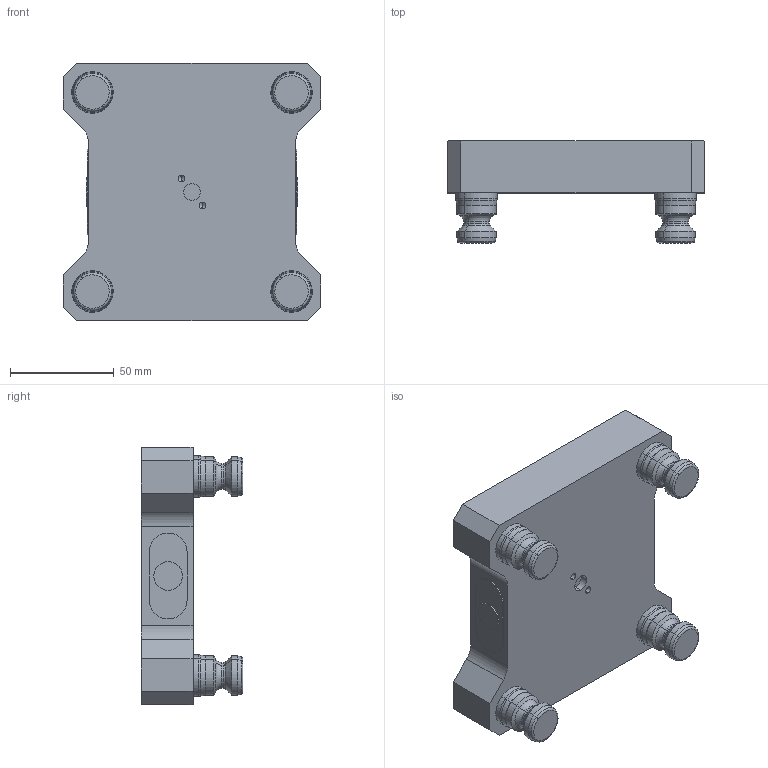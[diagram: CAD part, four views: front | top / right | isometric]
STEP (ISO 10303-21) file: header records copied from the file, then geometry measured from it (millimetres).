
FILE_DESCRIPTION (( 'STEP AP214' ), '1' );
FILE_NAME ('D_RL52A-A96.STEP', '2020-03-09T23:14:45', ( '' ), ( '' ), 'SwSTEP 2.0', 'SolidWorks 2018', '' );
FILE_SCHEMA (( 'AUTOMOTIVE_DESIGN' ));
Length unit declared in the file: millimetre
Products named in the file (3): D_RL52A-A96; D_PS20F_HARD TURN
Assembly tree (5 placements, depth 2):
  D_RL52A-A96
    D_RL52A-A96
    D_PS20F_HARD TURN  x4
Bounding box: 124 x 49 x 124 mm (x, y, z)
Volume: 304846.2 mm3; surface area: 71172.6 mm2
Topology: 5 solids, 5 shells, 363 faces, 806 edges, 488 vertices
Faces by surface type: cylinder 162, plane 89, torus 64, cone 48
Entity records: 8349 total; most frequent: CARTESIAN_POINT 1656, DIRECTION 1362, ORIENTED_EDGE 1140, EDGE_CURVE 570, AXIS2_PLACEMENT_3D 560, VERTEX_POINT 368, CIRCLE 306, EDGE_LOOP 302
